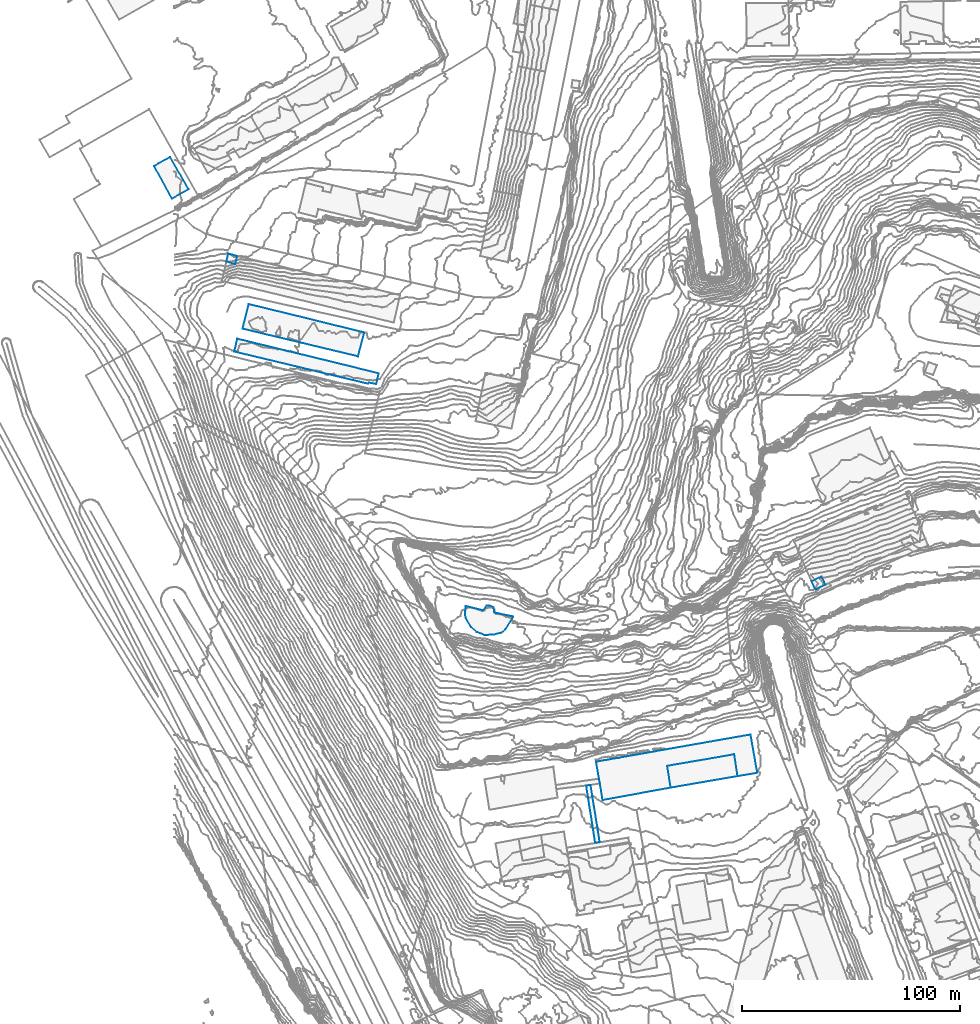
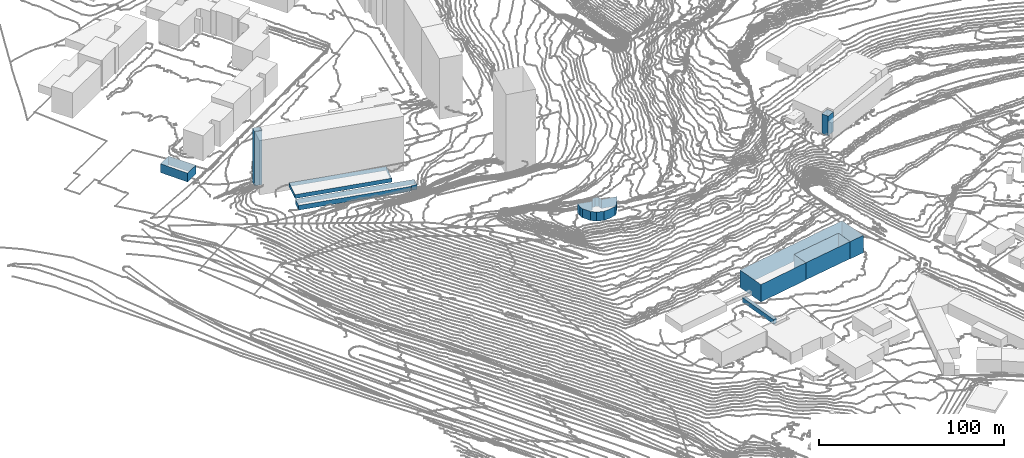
# Not in any storey, part 27 of 419: 9 walls.
"""IFC2X3 model written with IfcOpenShell, lengths in metres."""

from ifc_helpers import new_model, si_unit, frame, origin_with_axes, place, context, subcontext, project, faceted_brep, element, save


model = new_model("IFC2X3")

# Units and contexts
model_context = context("Model", 3, precision=1e-05, world=origin_with_axes())
body_context = subcontext(model_context, "Body", "Model", "MODEL_VIEW")
ifc_project = project(units=[si_unit("AREAUNIT", "SQUARE_METRE"), si_unit("LENGTHUNIT", "METRE")], contexts=[model_context])

# Walls
wall_1_placement = place(None, frame((-9.6079795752, 404.6976909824, 6.7739999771), z_axis=(0.0, 0.0, 1.0), x_axis=(1.0, 0.0, 0.0)))
element("IfcWall", 1, at=wall_1_placement, Name="Mur 0", context=body_context, shape_type="Brep", body=[
    faceted_brep([(0.0, 0.0, 5.8260000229), (1.8999999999, 1.1000000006, 5.8260000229), (0.0, 0.0, 0.0), (1.8999999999, 1.1000000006, 0.0), (8.2, -15.0, 5.8260000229), (8.2, -15.0, 0.0), (15.7999999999, -10.7000000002, 5.8260000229), (15.7999999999, -10.7000000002, 0.0), (7.3999999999, 4.1000000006, 5.8260000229), (7.3999999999, 4.1000000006, 0.0)], [[[0, 1, 2]], [[2, 1, 3]], [[4, 0, 5]], [[5, 0, 2]], [[6, 4, 7]], [[7, 4, 5]], [[1, 8, 3]], [[3, 8, 9]], [[8, 6, 9]], [[9, 6, 7]]]),
])
wall_2_placement = place(None, frame((133.1920204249, 199.1976909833, 52.7420005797), z_axis=(0.0, 0.0, 1.0), x_axis=(1.0, 0.0, 0.0)))
element("IfcWall", 2, at=wall_2_placement, Name="Mur 0", context=body_context, shape_type="Brep", body=[
    faceted_brep([(0.2999999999, -2.0, 6.0), (0.0, 0.0, 6.0), (0.2999999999, -2.0, 0.0), (0.0, 0.0, 0.0), (2.7999999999, -6.4000000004, 6.0), (2.7999999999, -6.4000000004, 0.0), (5.2999999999, -8.6000000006, 6.0), (5.2999999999, -8.6000000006, 0.0), (9.1, -10.0, 6.0), (9.1, -10.0, 0.0), (13.1, -9.8000000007, 6.0), (13.1, -9.8000000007, 0.0), (16.7999999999, -8.9000000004, 6.0), (16.7999999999, -8.9000000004, 0.0), (18.5, -7.4000000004, 6.0), (18.5, -7.4000000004, 0.0), (22.2, -1.5, 6.0), (22.2, -1.5, 0.0), (13.5, 0.2999999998, 6.0), (13.5, 0.2999999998, 0.0), (13.2, 2.5999999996, 6.0), (13.2, 2.5999999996, 0.0), (11.3999999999, 3.5999999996, 6.0), (11.3999999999, 3.5999999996, 0.0), (9.8999999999, 3.5, 6.0), (9.8999999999, 3.5, 0.0), (8.2999999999, 1.2999999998, 6.0), (8.2999999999, 1.2999999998, 0.0), (0.3999999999, 3.2999999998, 6.0), (0.3999999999, 3.2999999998, 0.0)], [[[0, 1, 2]], [[2, 1, 3]], [[4, 0, 5]], [[5, 0, 2]], [[6, 4, 7]], [[7, 4, 5]], [[8, 6, 9]], [[9, 6, 7]], [[10, 8, 11]], [[11, 8, 9]], [[12, 10, 13]], [[13, 10, 11]], [[14, 12, 15]], [[15, 12, 13]], [[16, 14, 17]], [[17, 14, 15]], [[18, 16, 19]], [[19, 16, 17]], [[20, 18, 21]], [[21, 18, 19]], [[22, 20, 23]], [[23, 20, 21]], [[24, 22, 25]], [[25, 22, 23]], [[26, 24, 27]], [[27, 24, 25]], [[1, 28, 3]], [[3, 28, 29]], [[28, 26, 29]], [[29, 26, 27]]]),
])
wall_3_placement = place(None, frame((188.8920204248, 120.0976909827, 24.4439993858), z_axis=(0.0, 0.0, 1.0), x_axis=(1.0, 0.0, 0.0)))
element("IfcWall", 3, at=wall_3_placement, Name="Mur 0", context=body_context, shape_type="Brep", body=[
    faceted_brep([(2.0, 0.2000000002, 3.0560006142), (6.2, -26.0, 3.0560006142), (2.0, 0.2000000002, 0.0), (6.2, -26.0, 0.0), (0.0, 0.0, 3.0560006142), (0.0, 0.0, 0.0), (4.1, -26.2999999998, 3.0560006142), (4.1, -26.2999999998, 0.0)], [[[0, 1, 2]], [[2, 1, 3]], [[4, 0, 5]], [[5, 0, 2]], [[1, 6, 3]], [[3, 6, 7]], [[6, 4, 7]], [[7, 4, 5]]]),
])
wall_4_placement = place(None, frame((30.9920204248, 329.8976909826, 20.8107998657), z_axis=(0.0, 0.0, 1.0), x_axis=(1.0, 0.0, 0.0)))
element("IfcWall", 4, at=wall_4_placement, Name="Mur 0", context=body_context, shape_type="Brep", body=[
    faceted_brep([(53.0, -12.7000000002, 2.5892001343), (0.0, 0.0, 2.5892001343), (53.0, -12.7000000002, 0.0), (0.0, 0.0, 0.0), (55.9, -1.7000000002, 2.5892001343), (55.9, -1.7000000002, 0.0), (2.7999999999, 11.2999999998, 2.5892001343), (2.7999999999, 11.2999999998, 0.0)], [[[0, 1, 2]], [[2, 1, 3]], [[4, 0, 5]], [[5, 0, 2]], [[1, 6, 3]], [[3, 6, 7]], [[6, 4, 7]], [[7, 4, 5]]]),
])
wall_5_placement = place(None, frame((292.3920204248, 213.8976909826, 42.5580001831), z_axis=(0.0, 0.0, 1.0), x_axis=(1.0, 0.0, 0.0)))
element("IfcWall", 5, at=wall_5_placement, Name="Mur 0", context=body_context, shape_type="Brep", body=[
    faceted_brep([(1.7999999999, -3.7000000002, 12.9419998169), (0.0, 0.0, 12.9419998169), (1.7999999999, -3.7000000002, 0.0), (0.0, 0.0, 0.0), (6.3999999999, -1.5, 12.9419998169), (6.3999999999, -1.5, 0.0), (4.6, 2.2000000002, 12.9419998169), (4.6, 2.2000000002, 0.0)], [[[0, 1, 2]], [[2, 1, 3]], [[4, 0, 5]], [[5, 0, 2]], [[1, 6, 3]], [[3, 6, 7]], [[6, 4, 7]], [[7, 4, 5]]]),
])
wall_6_placement = place(None, frame((226.0920204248, 129.0976909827, 26.2239994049), z_axis=(0.0, 0.0, 1.0), x_axis=(1.0, 0.0, 0.0)))
element("IfcWall", 6, at=wall_6_placement, Name="Mur 0", context=body_context, shape_type="Brep", body=[
    faceted_brep([(32.3, -4.7000000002, 11.2760005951), (1.6, -10.0, 11.2760005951), (32.3, -4.7000000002, 0.0), (1.6, -10.0, 0.0), (30.8, 5.2999999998, 11.2760005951), (30.8, 5.2999999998, 0.0), (0.0, 0.0, 11.2760005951), (0.0, 0.0, 0.0)], [[[0, 1, 2]], [[2, 1, 3]], [[4, 0, 5]], [[5, 0, 2]], [[1, 6, 3]], [[3, 6, 7]], [[6, 4, 7]], [[7, 4, 5]]]),
])
wall_7_placement = place(None, frame((27.1920204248, 319.3976909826, 20.8730007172), z_axis=(0.0, 0.0, 1.0), x_axis=(1.0, 0.0, 0.0)))
element("IfcWall", 7, at=wall_7_placement, Name="Mur 0", context=body_context, shape_type="Brep", body=[
    faceted_brep([(61.5, -14.7999999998, 3.1269992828), (0.0, 0.0, 3.1269992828), (61.5, -14.7999999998, 0.0), (0.0, 0.0, 0.0), (62.0, -14.2999999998, 3.1269992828), (62.0, -14.2999999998, 0.0), (65.2000000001, -14.9000000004, 3.1269992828), (65.2000000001, -14.9000000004, 0.0), (66.4, -10.0, 3.1269992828), (66.4, -10.0, 0.0), (1.4, 5.9000000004, 3.1269992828), (1.4, 5.9000000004, 0.0)], [[[0, 1, 2]], [[2, 1, 3]], [[4, 0, 5]], [[5, 0, 2]], [[6, 4, 7]], [[7, 4, 5]], [[8, 6, 9]], [[9, 6, 7]], [[1, 10, 3]], [[3, 10, 11]], [[10, 8, 11]], [[11, 8, 9]]]),
])
wall_8_placement = place(None, frame((23.5920204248, 360.6976909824, 13.1479997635), z_axis=(0.0, 0.0, 1.0), x_axis=(1.0, 0.0, 0.0)))
element("IfcWall", 8, at=wall_8_placement, Name="Mur 0", context=body_context, shape_type="Brep", body=[
    faceted_brep([(0.8, 3.7000000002, 35.5520002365), (4.9, 2.6000000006, 35.5520002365), (0.8, 3.7000000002, 0.0), (4.9, 2.6000000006, 0.0), (0.0, 0.0, 35.5520002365), (0.0, 0.0, 0.0), (4.1, -1.0999999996, 35.5520002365), (4.1, -1.0999999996, 0.0)], [[[0, 1, 2]], [[2, 1, 3]], [[4, 0, 5]], [[5, 0, 2]], [[1, 6, 3]], [[3, 6, 7]], [[6, 4, 7]], [[7, 4, 5]]]),
])
wall_9_placement = place(None, frame((193.3920204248, 130.9976909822, 26.0479995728), z_axis=(0.0, 0.0, 1.0), x_axis=(1.0, 0.0, 0.0)))
element("IfcWall", 9, at=wall_9_placement, Name="Mur 0", context=body_context, shape_type="Brep", body=[
    faceted_brep([(3.0, -17.5999999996, 11.4520004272), (1.7999999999, -10.0, 11.4520004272), (3.0, -17.5999999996, 0.0), (1.7999999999, -10.0, 0.0), (34.2999999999, -11.8999999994, 11.4520004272), (34.2999999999, -11.8999999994, 0.0), (32.7, -1.8999999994, 11.4520004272), (32.7, -1.8999999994, 0.0), (63.5, 3.4000000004, 11.4520004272), (63.5, 3.4000000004, 0.0), (65.0, -6.5999999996, 11.4520004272), (65.0, -6.5999999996, 0.0), (74.1, -5.0999999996, 11.4520004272), (74.1, -5.0999999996, 0.0), (71.0, 12.5, 11.4520004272), (71.0, 12.5, 0.0), (0.0, 0.0, 11.4520004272), (0.0, 0.0, 0.0)], [[[0, 1, 2]], [[2, 1, 3]], [[4, 0, 5]], [[5, 0, 2]], [[6, 4, 7]], [[7, 4, 5]], [[8, 6, 9]], [[9, 6, 7]], [[10, 8, 11]], [[11, 8, 9]], [[12, 10, 13]], [[13, 10, 11]], [[14, 12, 15]], [[15, 12, 13]], [[1, 16, 3]], [[3, 16, 17]], [[16, 14, 17]], [[17, 14, 15]]]),
])

save(model, "model.ifc")
